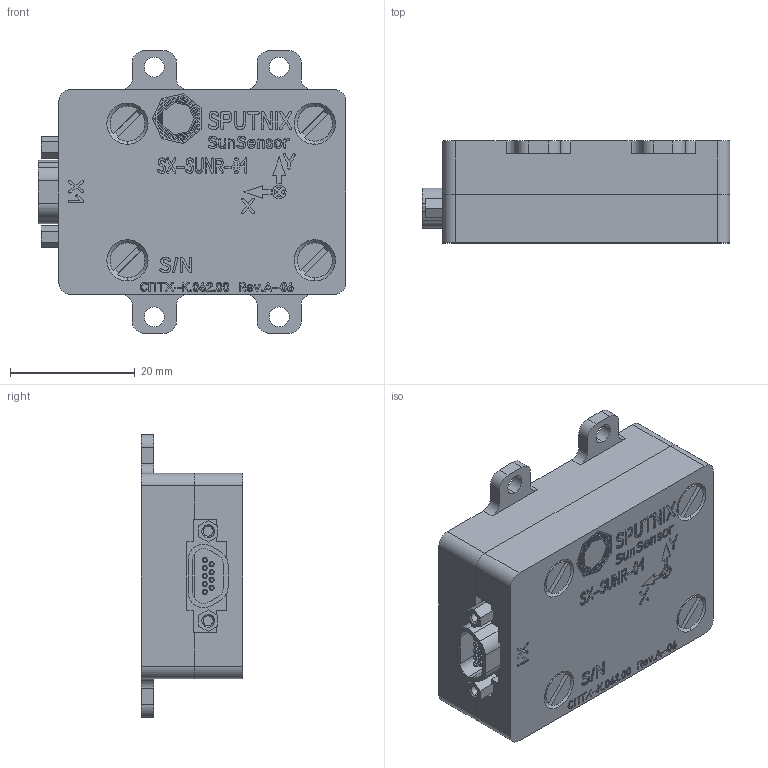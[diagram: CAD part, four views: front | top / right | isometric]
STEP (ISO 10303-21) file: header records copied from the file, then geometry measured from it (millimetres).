
FILE_DESCRIPTION (( 'STEP AP214' ), '1' );
FILE_NAME ('ﾑﾏﾒﾕ-ﾊ.062.00 ﾑ鸙淲隆 萵韭.STEP', '2017-03-17T14:55:50', ( 'Zaynulla' ), ( '' ), 'SwSTEP 2.0', 'SolidWorks 2017', '' );
FILE_SCHEMA (( 'AUTOMOTIVE_DESIGN' ));
Length unit declared in the file: millimetre
Products named in the file (2): ﾑﾏﾒﾕ-ﾊ.062.00 ﾑ鸙淲隆 萵韭
Bounding box: 49.33 x 16.3 x 45.3 mm (x, y, z)
Surface area: 7454.5 mm2 (no closed solid volume)
Topology: 0 solids, 27 shells, 1501 faces, 4247 edges, 2854 vertices
Faces by surface type: plane 733, bspline 594, cylinder 142, cone 32
Entity records: 83658 total; most frequent: CARTESIAN_POINT 32478, ORIENTED_EDGE 7950, DIRECTION 5109, EDGE_CURVE 4247, VERTEX_POINT 2854, VECTOR 2535, LINE 2535, EDGE_LOOP 1687
